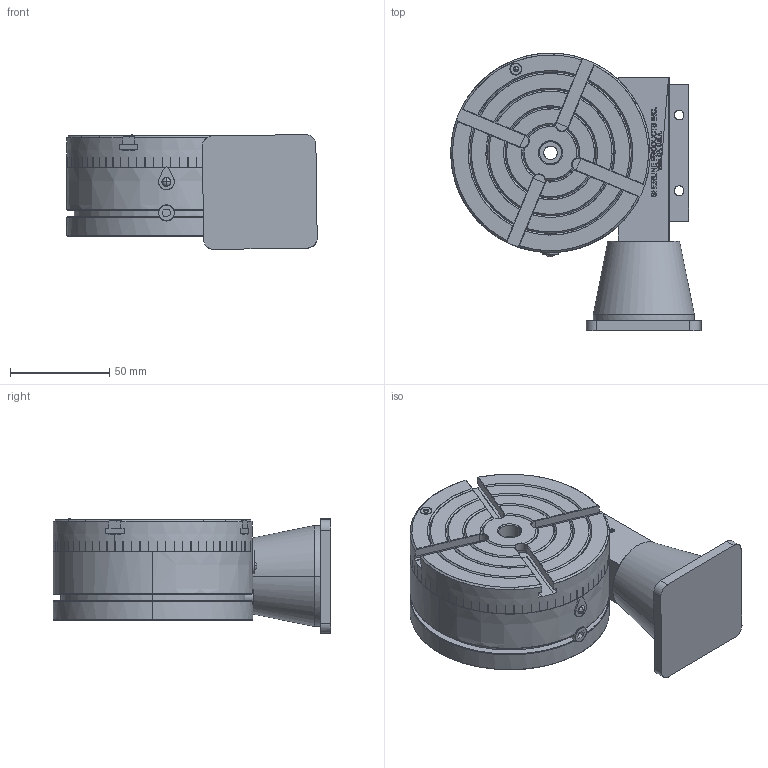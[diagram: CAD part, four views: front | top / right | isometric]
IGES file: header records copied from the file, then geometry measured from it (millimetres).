
Start section: Comment
Global section: file name: 3700-rotorytable cnc ready ND.igs; native system:  By Spatial Corp.; preprocessor: XPlus PS/IGES 3.0; author: Author; organization: Title; date: 20170719.103338; units: inch
Bounding box: 125.99 x 139.7 x 57.8 mm (x, y, z)
Surface area: 85918.9 mm2 (no closed solid volume)
Topology: 0 solids, 0 shells, 1231 faces, 6348 edges, 6336 vertices
Faces by surface type: extrusion 1008, revolution 223
